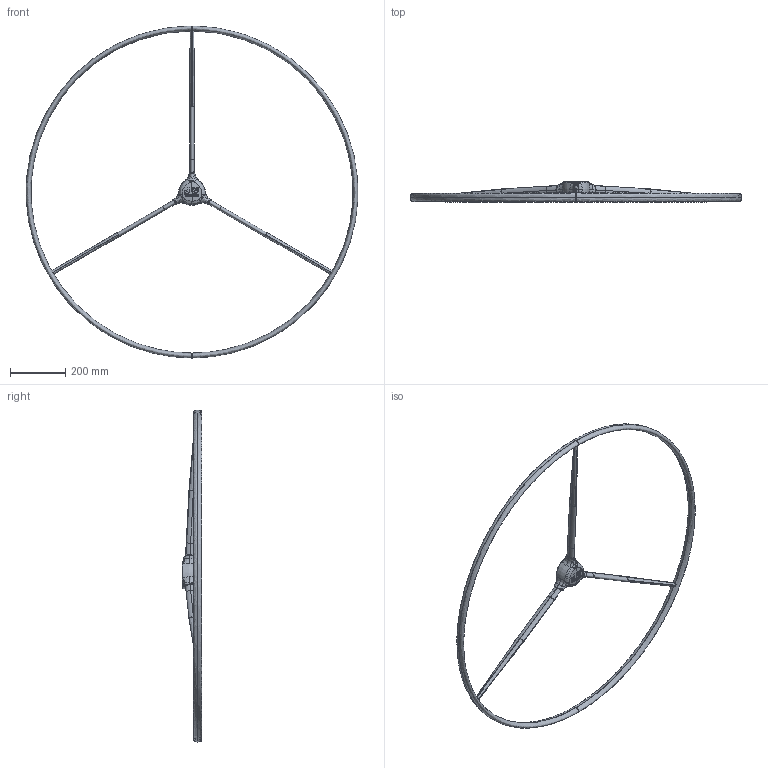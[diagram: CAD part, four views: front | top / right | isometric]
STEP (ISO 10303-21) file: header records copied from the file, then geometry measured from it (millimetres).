
FILE_DESCRIPTION(/* description */ (''),/* implementation_level */ '2;1');
FILE_NAME(/* name */ 'Roue_Titanium_1200',/* time_stamp */ '2009-11-26T09:25:38+01:00',/* author */ (''),/* organization */ (''),/* preprocessor_version */ 'ST-DEVELOPER v10',/* originating_system */ '',/* authorisation */ '');
FILE_SCHEMA (('CONFIG_CONTROL_DESIGN'));
Length unit declared in the file: millimetre
Products named in the file (1): 1
Bounding box: 1198.97 x 72 x 1200 mm (x, y, z)
Volume: 627842 mm3; surface area: 829835.2 mm2
Topology: 6 solids, 21 shells, 227 faces, 663 edges, 463 vertices
Faces by surface type: bspline 227
Entity records: 28551 total; most frequent: CARTESIAN_POINT 25007, ORIENTED_EDGE 1211, EDGE_CURVE 661, VERTEX_POINT 463, B_SPLINE_CURVE_WITH_KNOTS 290, EDGE_LOOP 264, ADVANCED_FACE 227, FACE_OUTER_BOUND 227
